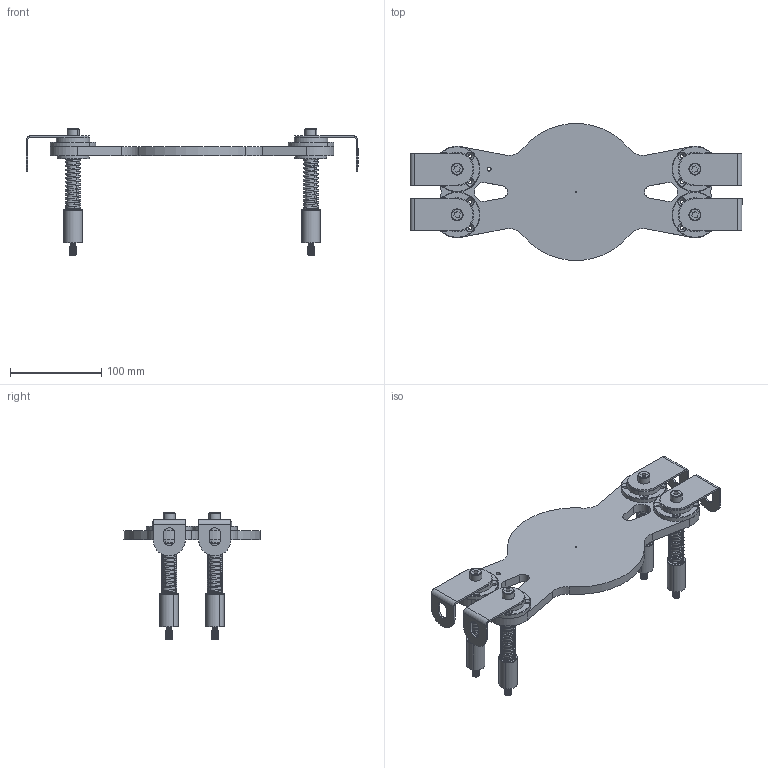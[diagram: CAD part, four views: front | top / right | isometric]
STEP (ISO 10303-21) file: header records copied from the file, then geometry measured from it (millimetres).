
FILE_DESCRIPTION (( 'STEP AP203' ), '1' );
FILE_NAME ('Floating attachment 260x50.STEP', '2020-04-07T04:48:06', ( '' ), ( '' ), 'SwSTEP 2.0', 'SolidWorks 2019', '' );
FILE_SCHEMA (( 'CONFIG_CONTROL_DESIGN' ));
Length unit declared in the file: millimetre
Products named in the file (1): Floating attachment 260x50
Bounding box: 363 x 149.51 x 139 mm (x, y, z)
Surface area: 174014.9 mm2 (no closed solid volume)
Topology: 0 solids, 41 shells, 638 faces, 1730 edges, 1146 vertices
Faces by surface type: cylinder 310, plane 156, cone 88, bspline 44, torus 40
Entity records: 52521 total; most frequent: CARTESIAN_POINT 36593, DIRECTION 3400, ORIENTED_EDGE 3154, EDGE_CURVE 1730, AXIS2_PLACEMENT_3D 1369, VERTEX_POINT 1146, CIRCLE 774, EDGE_LOOP 774
